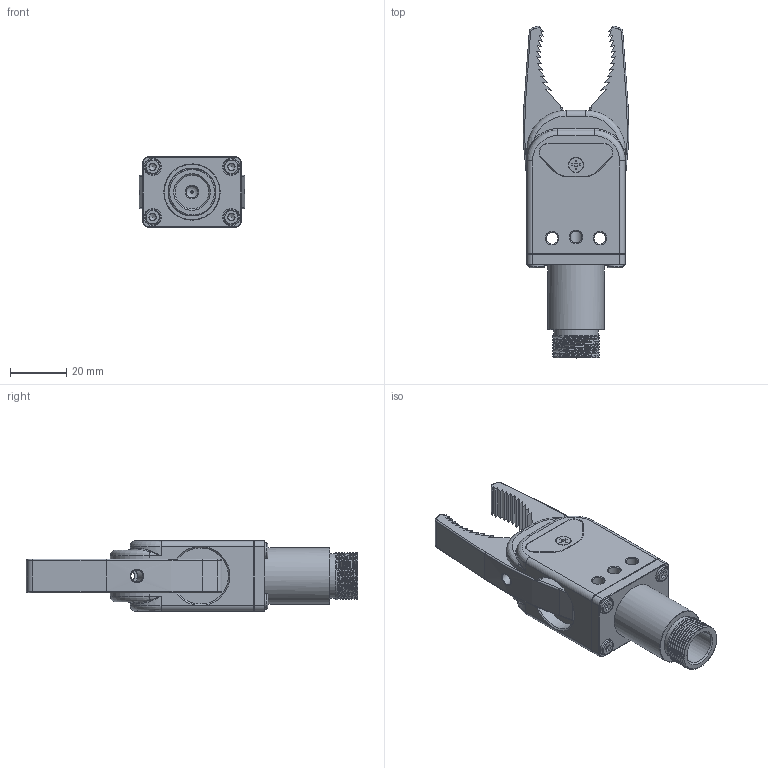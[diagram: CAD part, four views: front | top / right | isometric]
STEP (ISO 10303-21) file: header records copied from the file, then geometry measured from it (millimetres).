
FILE_DESCRIPTION(/* description */ (''),/* implementation_level */ '2;1');
FILE_NAME(/* name */ 'GR20G-20.stp',/* time_stamp */ '2023-03-08T16:10:01+08:00',/* author */ (''),/* organization */ (''),/* preprocessor_version */ 'ST-DEVELOPER v16',/* originating_system */ 'SIEMENS PLM Software NX 10.0',/* authorisation */ '');
FILE_SCHEMA (('AUTOMOTIVE_DESIGN { 1 0 10303 214 3 1 1 1 }'));
Length unit declared in the file: millimetre
Products named in the file (1): Admi115498B06jcv
Bounding box: 37.7 x 118.15 x 25 mm (x, y, z)
Volume: 50655.2 mm3; surface area: 20601.1 mm2
Topology: 1 solids, 16 shells, 588 faces, 1512 edges, 959 vertices
Faces by surface type: plane 244, cylinder 157, cone 116, revolution 41, bspline 30
Full cylindrical faces by diameter (mm): 0.8 x1, 2.5 x4, 3 x28, 3.2 x1, 3.4 x4, 3.541 x4, 4 x8, 4.2 x8, 5 x4, 5.2 x1, 5.5 x4, 6 x4, 7.8 x2, 12 x1, 15.8 x1, 20 x1
Entity records: 34737 total; most frequent: CARTESIAN_POINT 17998, DIRECTION 2612, ORIENTED_EDGE 2378, EDGE_CURVE 1189, AXIS2_PLACEMENT_3D 1000, EDGE_LOOP 843, VERTEX_POINT 834, ADVANCED_FACE 588
